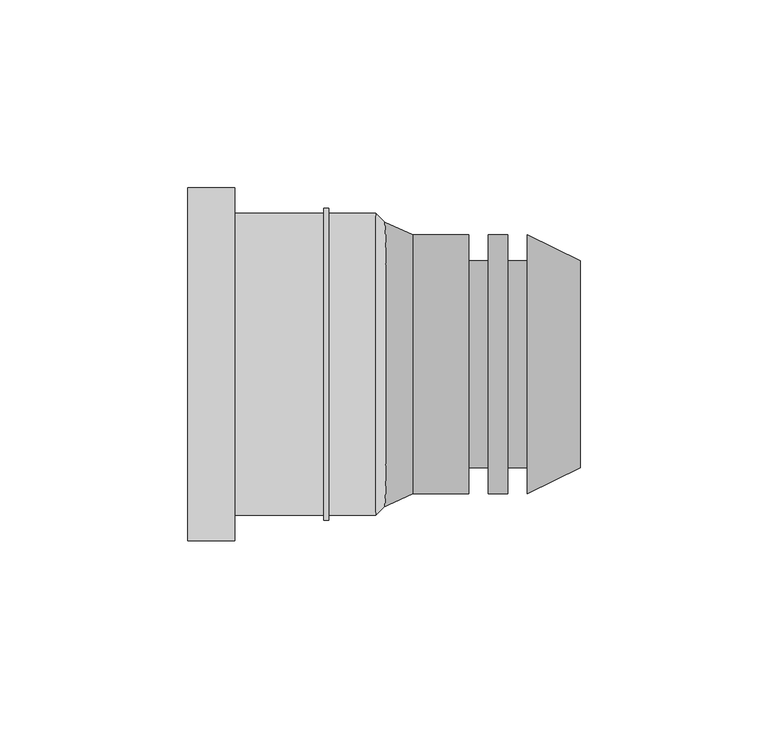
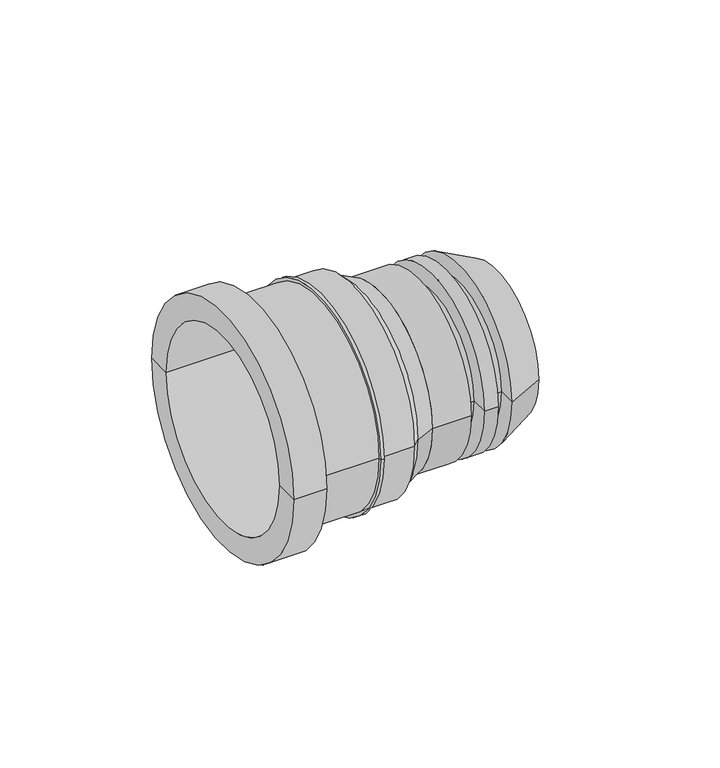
"""IFC4 building model written with IfcOpenShell, lengths in millimetres: pipe fitting geometry, UN_PIF_PP adapter socket verjongd_PipeLife : Black, var. DN/OD (max. ø125)."""

import ifcopenshell
import ifcopenshell.guid

model = None  # the IFC model being written
_history = None  # IfcOwnerHistory: only IFC2X3 demands one
_inside = {}  # id of a spatial element -> (the spatial element, [elements in it])
_under = {}  # id of a project, library or spatial element -> (it, [spatial elements below it])
_declared = {}  # id of a project -> (the project, [libraries it declares])
_typed = {}  # id of a type object -> (the type object, [elements of that type])
_made_of = {}  # id of a material, layer set ... -> (it, [elements and type objects made of it])


def new_model(schema):
    """Start an empty IFC model of exactly this schema.

    Asked for "IFC4X3", IfcOpenShell would pick the latest addendum, in which some entities
    have other attributes; the version numbers below select the first issue.
    IFC2X3 requires an IfcOwnerHistory on every rooted entity: one is made here for all.
    """
    global model, _history
    if schema == "IFC4X3":
        model = ifcopenshell.file(schema_version=(4, 3, 0, 0))
    else:
        model = ifcopenshell.file(schema=schema)
    _inside.clear()
    _under.clear()
    _declared.clear()
    _typed.clear()
    _made_of.clear()
    _history = None
    if model.schema == "IFC2X3":
        org = make("IfcOrganization", Name="unknown")
        user = make(
            "IfcPersonAndOrganization",
            ThePerson=make("IfcPerson", FamilyName="unknown"),
            TheOrganization=org,
        )
        app = make(
            "IfcApplication",
            ApplicationDeveloper=org,
            Version="unknown",
            ApplicationFullName="unknown",
            ApplicationIdentifier="unknown",
        )
        _history = make(
            "IfcOwnerHistory",
            OwningUser=user,
            OwningApplication=app,
            ChangeAction="ADDED",
            CreationDate=0,
        )
    return model


def make(cls, **values):
    """One entity of the class cls with the attributes given. An attribute that is None is left unset."""
    return model.create_entity(
        cls, **{name: value for name, value in values.items() if value is not None}
    )


def rooted(cls, **values):
    """An entity with a GlobalId (a new one), such as an element, a storey or a relation."""
    return make(cls, GlobalId=ifcopenshell.guid.new(), OwnerHistory=_history, **values)


def si_unit(unit_type, name, prefix=None):
    """IfcSIUnit, for example si_unit("LENGTHUNIT", "METRE", prefix="MILLI")."""
    return make("IfcSIUnit", UnitType=unit_type, Prefix=prefix, Name=name)


def assignment(units):
    """IfcUnitAssignment: the units of a project."""
    return None if units is None else make("IfcUnitAssignment", Units=units)


def point(xyz):
    """IfcCartesianPoint."""
    return None if xyz is None else make("IfcCartesianPoint", Coordinates=xyz)


def direction(xyz):
    """IfcDirection."""
    return None if xyz is None else make("IfcDirection", DirectionRatios=xyz)


def frame(location, z_axis=None, x_axis=None):
    """IfcAxis2Placement3D, a coordinate frame: its origin and axes. An axis left out is left unset."""
    return make(
        "IfcAxis2Placement3D",
        Location=point(location),
        Axis=direction(z_axis),
        RefDirection=direction(x_axis),
    )


def origin():
    """The frame at (0, 0, 0) with its axes left unset."""
    return frame((0.0, 0.0, 0.0))


def place(relative_to, where):
    """IfcLocalPlacement: puts the frame where relative to a parent placement (None: the world)."""
    return make(
        "IfcLocalPlacement", PlacementRelTo=relative_to, RelativePlacement=where
    )


def context(
    kind, dimensions, precision=None, world=None, true_north=None, identifier=None
):
    """IfcGeometricRepresentationContext, for example the 3D "Model" context."""
    return make(
        "IfcGeometricRepresentationContext",
        ContextIdentifier=identifier,
        ContextType=kind,
        CoordinateSpaceDimension=dimensions,
        Precision=precision,
        WorldCoordinateSystem=world,
        TrueNorth=true_north,
    )


def project(units=None, contexts=None):
    """IfcProject with its units and contexts."""
    return rooted(
        "IfcProject",
        Name="project",
        RepresentationContexts=contexts,
        UnitsInContext=assignment(units),
    )


def spatial(cls, under=None, at=None, **own):
    """A site, building, storey or space (cls), placed at a placement, below another one or the project."""
    s = rooted(cls, ObjectPlacement=at, **own)
    if under is not None:
        _under.setdefault(under.id(), (under, []))[1].append(s)
    return s


def polyline(points):
    """IfcPolyline through the points."""
    return make("IfcPolyline", Points=[point(p) for p in points])


def circle_curve(where, radius):
    """IfcCircle in the frame where."""
    return make("IfcCircle", Position=where, Radius=radius)


def shape(context_of_items, identifier, shape_type, items):
    """IfcShapeRepresentation: the items that make up one representation, for example the "Body"."""
    return make(
        "IfcShapeRepresentation",
        ContextOfItems=context_of_items,
        RepresentationIdentifier=identifier,
        RepresentationType=shape_type,
        Items=items,
    )


def source(mapping_origin, context_of_items, identifier, shape_type, items):
    """IfcRepresentationMap: a shape defined once, which mapped items show again and again."""
    return make(
        "IfcRepresentationMap",
        MappingOrigin=mapping_origin,
        MappedRepresentation=shape(context_of_items, identifier, shape_type, items),
    )


def transform(
    local_origin,
    x_axis=None,
    y_axis=None,
    z_axis=None,
    scale=None,
    scale2=None,
    scale3=None,
    uniform=True,
):
    """IfcCartesianTransformationOperator3D, or its non-uniform kind. x_axis, y_axis, z_axis: its Axis1, 2, 3."""
    if uniform:
        return make(
            "IfcCartesianTransformationOperator3D",
            Axis1=direction(x_axis),
            Axis2=direction(y_axis),
            LocalOrigin=point(local_origin),
            Scale=scale,
            Axis3=direction(z_axis),
        )
    return make(
        "IfcCartesianTransformationOperator3DnonUniform",
        Axis1=direction(x_axis),
        Axis2=direction(y_axis),
        LocalOrigin=point(local_origin),
        Scale=scale,
        Axis3=direction(z_axis),
        Scale2=scale2,
        Scale3=scale3,
    )


def mapped(mapping_source, mapping_target):
    """IfcMappedItem: shows the shape of a source again, moved by a transform."""
    return make(
        "IfcMappedItem", MappingSource=mapping_source, MappingTarget=mapping_target
    )


def made_of(thing, what):
    """Note that an element or type object is made of a material, layer set ...; save() writes the relation."""
    if what is not None:
        _made_of.setdefault(what.id(), (what, []))[1].append(thing)
    return thing


def element(
    cls,
    number,
    at=None,
    inside=None,
    cuts=None,
    type_object=None,
    material=None,
    context=None,
    identifier="Body",
    shape_type=None,
    held_by="IfcProductDefinitionShape",
    body=None,
    shapes=None,
    **own,
):
    """One element of the class cls, such as IfcWall. Its Tag is "e" and its number.

    at: its placement. inside: the storey or other place that contains it. cuts: it is an
    opening in that element (IfcRelVoidsElement). A single representation is given by context,
    identifier, shape_type and body (its items); several are given by shapes. held_by: the class
    of the entity that holds the representations. save() writes the other relations.
    """
    e = rooted(cls, Tag="e%d" % number, ObjectPlacement=at, **own)
    if body is not None:
        shapes = [shape(context, identifier, shape_type, body)]
    if shapes is not None:
        e.Representation = make(held_by, Representations=shapes)
    if inside is not None:
        _inside.setdefault(inside.id(), (inside, []))[1].append(e)
    if cuts is not None:
        rooted(
            "IfcRelVoidsElement", RelatingBuildingElement=cuts, RelatedOpeningElement=e
        )
    if type_object is not None:
        _typed.setdefault(type_object.id(), (type_object, []))[1].append(e)
    return made_of(e, material)


def aggregate(whole, parts):
    """IfcRelAggregates: a whole, such as a stair, and the parts it consists of."""
    return rooted("IfcRelAggregates", RelatingObject=whole, RelatedObjects=parts)


def save(model, path):
    """Write the relations noted so far, then the file.

    IfcRelAggregates (storeys below a building ...), IfcRelContainedInSpatialStructure (elements
    in a storey), IfcRelDefinesByType, IfcRelAssociatesMaterial and IfcRelDeclares: one each for
    every whole, place, type object, material and project.
    """
    for whole, parts in _under.values():
        aggregate(whole, parts)
    for where, things in _inside.values():
        rooted(
            "IfcRelContainedInSpatialStructure",
            RelatedElements=things,
            RelatingStructure=where,
        )
    for kind, things in _typed.values():
        rooted("IfcRelDefinesByType", RelatedObjects=things, RelatingType=kind)
    for what, things in _made_of.values():
        rooted("IfcRelAssociatesMaterial", RelatedObjects=things, RelatingMaterial=what)
    for by, libraries in _declared.values():
        rooted("IfcRelDeclares", RelatingContext=by, RelatedDefinitions=libraries)
    model.write(path)


def plane_surface(at):
    """IfcPlane: the flat surface through the origin of the frame at, square to its z axis."""
    return make("IfcPlane", Position=at)


def cylinder_surface(at, radius):
    """IfcCylindricalSurface: all points at the distance radius from the z axis of the frame at."""
    return make("IfcCylindricalSurface", Position=at, Radius=radius)


def revolved_surface(curve, axis_point, axis_direction):
    """IfcSurfaceOfRevolution: the curve turned about the line through axis_point along axis_direction."""
    return make(
        "IfcSurfaceOfRevolution",
        SweptCurve=make("IfcArbitraryOpenProfileDef", ProfileType="CURVE", Curve=curve),
        AxisPosition=make("IfcAxis1Placement", Location=point(axis_point), Axis=direction(axis_direction)),
    )


def advanced_brep(points, edges, surfaces, faces):
    """IfcAdvancedBrep: a solid bounded by faces that lie on surfaces and meet in shared edges.

    An edge is (start, end): straight between two places in points (the first is 0);
    or (start, end, curve); or (start, end, curve, False) where it runs against its curve.
    A face is (place in surfaces, loops), or (place, loops, False) where it looks against
    its surface's normal. A loop lists edges by number (the first is 1), with a minus sign
    where the edge is run from its end to its start. The first loop is the outer one.
    """
    corners = [point(p) for p in points]
    vertices = [make("IfcVertexPoint", VertexGeometry=c) for c in corners]
    made = []
    for start, end, *more in edges:
        made.append(
            make(
                "IfcEdgeCurve",
                EdgeStart=vertices[start],
                EdgeEnd=vertices[end],
                EdgeGeometry=more[0] if more else make("IfcPolyline", Points=[corners[start], corners[end]]),
                SameSense=more[1] if len(more) > 1 else True,
            )
        )
    hull = []
    for where, loops, *sense in faces:
        bounds = []
        for j, loop in enumerate(loops):
            ring = [make("IfcOrientedEdge", EdgeElement=made[abs(k) - 1], Orientation=k > 0) for k in loop]
            bounds.append(
                make(
                    "IfcFaceOuterBound" if j == 0 else "IfcFaceBound",
                    Bound=make("IfcEdgeLoop", EdgeList=ring),
                    Orientation=True,
                )
            )
        hull.append(make("IfcAdvancedFace", Bounds=bounds, FaceSurface=surfaces[where], SameSense=sense[0] if sense else True))
    return make("IfcAdvancedBrep", Outer=make("IfcClosedShell", CfsFaces=hull))


def pipe_fitting_f07398e3(model_context):
    return source(origin(), model_context, "Body", "AdvancedBrep", [
        advanced_brep(
        [(-7.2, 37.5, 0.0), (-7.2, -37.5, 0.0), (-9.9, -40.2, 0.0), (-9.9, 40.2, 0.0), (-59.8, 46.9, 0.0), (-59.8, -46.9, 0.0), (-59.8, -37.5, 0.0), (-59.8, 37.5, 0.0), (-47.325, 46.9, 0.0), (-47.325, -46.9, 0.0), (-47.325, 40.2, 0.0), (-47.325, -40.2, 0.0), (-23.625, 40.2, 0.0), (-23.625, -40.2, 0.0), (-23.625, 41.45, 0.0), (-23.625, -41.45, 0.0), (-22.375, 41.45, 0.0), (-22.375, -41.45, 0.0), (-22.375, 40.2, 0.0), (-22.375, -40.2, 0.0)],
        [
            (0, 1, circle_curve(frame((-7.2, 0.0, 0.0), z_axis=(-1.0, 0.0, 0.0), x_axis=(0.0, -1.0, 0.0)), 37.5)),
            (1, 2),
            (2, 3, circle_curve(frame((-9.9, 0.0, 0.0), z_axis=(1.0, 0.0, 0.0), x_axis=(0.0, -1.0, 0.0)), 40.2)),
            (3, 0),
            (1, 0, circle_curve(frame((-7.2, 0.0, 0.0), z_axis=(-1.0, 0.0, 0.0), x_axis=(0.0, -1.0, 0.0)), 37.5)),
            (3, 2, circle_curve(frame((-9.9, 0.0, 0.0), z_axis=(1.0, 0.0, 0.0), x_axis=(0.0, -1.0, 0.0)), 40.2)),
            (4, 5, circle_curve(frame((-59.8, 0.0, 0.0), z_axis=(-1.0, 0.0, 0.0), x_axis=(0.0, -1.0, 0.0)), 46.9)),
            (5, 6),
            (6, 7, circle_curve(frame((-59.8, 0.0, 0.0), z_axis=(1.0, 0.0, 0.0), x_axis=(0.0, -1.0, 0.0)), 37.5)),
            (7, 4),
            (5, 4, circle_curve(frame((-59.8, 0.0, 0.0), z_axis=(-1.0, 0.0, 0.0), x_axis=(0.0, -1.0, 0.0)), 46.9)),
            (7, 6, circle_curve(frame((-59.8, 0.0, 0.0), z_axis=(1.0, 0.0, 0.0), x_axis=(0.0, -1.0, 0.0)), 37.5)),
            (8, 9, circle_curve(frame((-47.325, 0.0, 0.0), z_axis=(-1.0, 0.0, 0.0), x_axis=(0.0, -1.0, 0.0)), 46.9)),
            (9, 5),
            (4, 8),
            (9, 8, circle_curve(frame((-47.325, 0.0, 0.0), z_axis=(-1.0, 0.0, 0.0), x_axis=(0.0, -1.0, 0.0)), 46.9)),
            (10, 11, circle_curve(frame((-47.325, 0.0, 0.0), z_axis=(-1.0, 0.0, 0.0), x_axis=(0.0, -1.0, 0.0)), 40.2)),
            (11, 9),
            (8, 10),
            (11, 10, circle_curve(frame((-47.325, 0.0, 0.0), z_axis=(-1.0, 0.0, 0.0), x_axis=(0.0, -1.0, 0.0)), 40.2)),
            (12, 13, circle_curve(frame((-23.625, 0.0, 0.0), z_axis=(-1.0, 0.0, 0.0), x_axis=(0.0, -1.0, 0.0)), 40.2)),
            (13, 11),
            (10, 12),
            (13, 12, circle_curve(frame((-23.625, 0.0, 0.0), z_axis=(-1.0, 0.0, 0.0), x_axis=(0.0, -1.0, 0.0)), 40.2)),
            (14, 15, circle_curve(frame((-23.625, 0.0, 0.0), z_axis=(-1.0, 0.0, 0.0), x_axis=(0.0, -1.0, 0.0)), 41.45)),
            (15, 13),
            (12, 14),
            (15, 14, circle_curve(frame((-23.625, 0.0, 0.0), z_axis=(-1.0, 0.0, 0.0), x_axis=(0.0, -1.0, 0.0)), 41.45)),
            (16, 17, circle_curve(frame((-22.375, 0.0, 0.0), z_axis=(-1.0, 0.0, 0.0), x_axis=(0.0, -1.0, 0.0)), 41.45)),
            (17, 15),
            (14, 16),
            (17, 16, circle_curve(frame((-22.375, 0.0, 0.0), z_axis=(-1.0, 0.0, 0.0), x_axis=(0.0, -1.0, 0.0)), 41.45)),
            (18, 19, circle_curve(frame((-22.375, 0.0, 0.0), z_axis=(-1.0, 0.0, 0.0), x_axis=(0.0, -1.0, 0.0)), 40.2)),
            (19, 17),
            (16, 18),
            (19, 18, circle_curve(frame((-22.375, 0.0, 0.0), z_axis=(-1.0, 0.0, 0.0), x_axis=(0.0, -1.0, 0.0)), 40.2)),
            (2, 19),
            (18, 3),
            (6, 1),
            (0, 7),
        ],
        [
            revolved_surface(polyline([(-9.9, -40.2, 0.0), (-7.2, -37.5, 0.0)]), (-59.8, 0.0, 0.0), (1.0, 0.0, 0.0)),
            plane_surface(frame((-59.8, 0.0, 0.0), z_axis=(-1.0, 0.0, 0.0), x_axis=(0.0, -1.0, 0.0))),
            cylinder_surface(frame((-59.8, 0.0, 0.0), z_axis=(1.0, 0.0, 0.0), x_axis=(0.0, -1.0, 0.0)), 46.9),
            plane_surface(frame((-47.325, 0.0, 0.0), z_axis=(1.0, 0.0, 0.0), x_axis=(0.0, -1.0, 0.0))),
            cylinder_surface(frame((-59.8, 0.0, 0.0), z_axis=(1.0, 0.0, 0.0), x_axis=(0.0, -1.0, 0.0)), 40.2),
            plane_surface(frame((-23.625, 0.0, 0.0), z_axis=(-1.0, 0.0, 0.0), x_axis=(0.0, -1.0, 0.0))),
            cylinder_surface(frame((-59.8, 0.0, 0.0), z_axis=(1.0, 0.0, 0.0), x_axis=(0.0, -1.0, 0.0)), 41.45),
            plane_surface(frame((-22.375, 0.0, 0.0), z_axis=(1.0, 0.0, 0.0), x_axis=(0.0, -1.0, 0.0))),
            revolved_surface(polyline([(-7.200000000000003, -37.5, 0.0), (-59.8, -37.5, 0.0)]), (-59.8, 0.0, 0.0), (1.0, 0.0, 0.0)),
        ],
        [
            (0, [[1, 2, 3, 4]]),
            (0, [[5, -4, 6, -2]]),
            (1, [[7, 8, 9, 10]]),
            (1, [[11, -10, 12, -8]]),
            (2, [[13, 14, -7, 15]]),
            (2, [[16, -15, -11, -14]]),
            (3, [[17, 18, -13, 19]]),
            (3, [[20, -19, -16, -18]]),
            (4, [[21, 22, -17, 23]]),
            (4, [[24, -23, -20, -22]]),
            (5, [[25, 26, -21, 27]]),
            (5, [[28, -27, -24, -26]]),
            (6, [[29, 30, -25, 31]]),
            (6, [[32, -31, -28, -30]]),
            (7, [[33, 34, -29, 35]]),
            (7, [[36, -35, -32, -34]]),
            (4, [[-3, 37, -33, 38]]),
            (4, [[-6, -38, -36, -37]]),
            (8, [[-9, 39, -1, 40]]),
            (8, [[-12, -40, -5, -39]]),
        ],
    ),
        advanced_brep(
        [(0.0, -34.4, 0.0), (0.0, 34.4, 0.0), (-9.9, -38.9, 0.0), (-9.9, 38.9, 0.0)],
        [
            (0, 1, circle_curve(frame((0.0, 0.0, 0.0), z_axis=(1.0, 0.0, 0.0), x_axis=(0.0, -1.0, 0.0)), 34.4)),
            (1, 0, circle_curve(frame((0.0, 0.0, 0.0), z_axis=(1.0, 0.0, 0.0), x_axis=(0.0, 1.0, 0.0)), 34.4)),
            (2, 3, circle_curve(frame((-9.9, 0.0, 0.0), z_axis=(-1.0, 0.0, 0.0), x_axis=(0.0, 1.0, 0.0)), 38.9)),
            (3, 2, circle_curve(frame((-9.9, 0.0, 0.0), z_axis=(-1.0, 0.0, 0.0), x_axis=(0.0, -1.0, 0.0)), 38.9)),
            (3, 1),
            (0, 2),
        ],
        [
            plane_surface(frame((0.0, 0.0, 0.0), z_axis=(1.0, 0.0, 0.0), x_axis=(0.0, 0.0, -1.0))),
            plane_surface(frame((-9.9, 0.0, 0.0), z_axis=(-1.0, 0.0, 0.0), x_axis=(0.0, 0.0, -1.0))),
            revolved_surface(polyline([(0.0, -34.4, 0.0), (-9.900000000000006, -38.9, 0.0)]), (75.68, 0.0, 0.0), (-1.0, 0.0, 0.0)),
            revolved_surface(polyline([(0.0, 34.4, 0.0), (-9.900000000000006, 38.9, 0.0)]), (75.68, 0.0, 0.0), (-1.0, 0.0, 0.0)),
        ],
        [
            (0, [[1, 2]]),
            (1, [[3, 4]]),
            (2, [[-4, 5, -1, 6]]),
            (3, [[-3, -6, -2, -5]]),
        ],
    ),
        advanced_brep(
        [(0.0, 0.0, 0.0), (0.0, 34.4, 0.0), (0.0, -34.4, 0.0), (44.5, -27.5, 0.0), (44.5, 27.5, 0.0), (44.5, 0.0, 0.0), (30.4333333, -34.4, 0.0), (30.4333333, 34.4, 0.0), (30.4333333, -27.5, 0.0), (30.4333333, 27.5, 0.0), (25.2333333, -27.5, 0.0), (25.2333333, 27.5, 0.0), (25.2333333, -34.4, 0.0), (25.2333333, 34.4, 0.0), (20.0333333, -34.4, 0.0), (20.0333333, 34.4, 0.0), (20.0333333, -27.5, 0.0), (20.0333333, 27.5, 0.0), (14.8333333, -27.5, 0.0), (14.8333333, 27.5, 0.0), (14.8333333, -34.4, 0.0), (14.8333333, 34.4, 0.0)],
        [
            (0, 1),
            (1, 2, circle_curve(frame((0.0, 0.0, 0.0), z_axis=(-1.0, 0.0, 0.0), x_axis=(0.0, 1.0, 0.0)), 34.4)),
            (2, 0),
            (2, 1, circle_curve(frame((0.0, 0.0, 0.0), z_axis=(-1.0, 0.0, 0.0), x_axis=(0.0, 1.0, 0.0)), 34.4)),
            (3, 4, circle_curve(frame((44.5, 0.0, 0.0), z_axis=(1.0, 0.0, 0.0), x_axis=(0.0, 1.0, 0.0)), 27.5)),
            (4, 5),
            (5, 3),
            (4, 3, circle_curve(frame((44.5, 0.0, 0.0), z_axis=(1.0, 0.0, 0.0), x_axis=(0.0, 1.0, 0.0)), 27.5)),
            (6, 7, circle_curve(frame((30.4333333, 0.0, 0.0), z_axis=(1.0, 0.0, 0.0), x_axis=(0.0, 1.0, 0.0)), 34.4)),
            (7, 4),
            (3, 6),
            (7, 6, circle_curve(frame((30.4333333, 0.0, 0.0), z_axis=(1.0, 0.0, 0.0), x_axis=(0.0, 1.0, 0.0)), 34.4)),
            (8, 9, circle_curve(frame((30.4333333, 0.0, 0.0), z_axis=(1.0, 0.0, 0.0), x_axis=(0.0, 1.0, 0.0)), 27.5)),
            (9, 7),
            (6, 8),
            (9, 8, circle_curve(frame((30.4333333, 0.0, 0.0), z_axis=(1.0, 0.0, 0.0), x_axis=(0.0, 1.0, 0.0)), 27.5)),
            (10, 11, circle_curve(frame((25.2333333, 0.0, 0.0), z_axis=(1.0, 0.0, 0.0), x_axis=(0.0, 1.0, 0.0)), 27.5)),
            (11, 9),
            (8, 10),
            (11, 10, circle_curve(frame((25.2333333, 0.0, 0.0), z_axis=(1.0, 0.0, 0.0), x_axis=(0.0, 1.0, 0.0)), 27.5)),
            (12, 13, circle_curve(frame((25.2333333, 0.0, 0.0), z_axis=(1.0, 0.0, 0.0), x_axis=(0.0, 1.0, 0.0)), 34.4)),
            (13, 11),
            (10, 12),
            (13, 12, circle_curve(frame((25.2333333, 0.0, 0.0), z_axis=(1.0, 0.0, 0.0), x_axis=(0.0, 1.0, 0.0)), 34.4)),
            (14, 15, circle_curve(frame((20.0333333, 0.0, 0.0), z_axis=(1.0, 0.0, 0.0), x_axis=(0.0, 1.0, 0.0)), 34.4)),
            (15, 13),
            (12, 14),
            (15, 14, circle_curve(frame((20.0333333, 0.0, 0.0), z_axis=(1.0, 0.0, 0.0), x_axis=(0.0, 1.0, 0.0)), 34.4)),
            (16, 17, circle_curve(frame((20.0333333, 0.0, 0.0), z_axis=(1.0, 0.0, 0.0), x_axis=(0.0, 1.0, 0.0)), 27.5)),
            (17, 15),
            (14, 16),
            (17, 16, circle_curve(frame((20.0333333, 0.0, 0.0), z_axis=(1.0, 0.0, 0.0), x_axis=(0.0, 1.0, 0.0)), 27.5)),
            (18, 19, circle_curve(frame((14.8333333, 0.0, 0.0), z_axis=(1.0, 0.0, 0.0), x_axis=(0.0, 1.0, 0.0)), 27.5)),
            (19, 17),
            (16, 18),
            (19, 18, circle_curve(frame((14.8333333, 0.0, 0.0), z_axis=(1.0, 0.0, 0.0), x_axis=(0.0, 1.0, 0.0)), 27.5)),
            (20, 21, circle_curve(frame((14.8333333, 0.0, 0.0), z_axis=(1.0, 0.0, 0.0), x_axis=(0.0, 1.0, 0.0)), 34.4)),
            (21, 19),
            (18, 20),
            (21, 20, circle_curve(frame((14.8333333, 0.0, 0.0), z_axis=(1.0, 0.0, 0.0), x_axis=(0.0, 1.0, 0.0)), 34.4)),
            (1, 21),
            (20, 2),
        ],
        [
            plane_surface(frame((0.0, 0.0, 0.0), z_axis=(-1.0, 0.0, 0.0), x_axis=(0.0, 1.0, 0.0))),
            plane_surface(frame((44.5, 0.0, 0.0), z_axis=(1.0, 0.0, 0.0), x_axis=(0.0, 1.0, 0.0))),
            revolved_surface(polyline([(44.5, 27.5, 0.0), (30.4333333, 34.4, 0.0)]), (81.1505984, 0.0, 0.0), (-1.0, 0.0, 0.0)),
            plane_surface(frame((30.4333333, 0.0, 0.0), z_axis=(-1.0, 0.0, 0.0), x_axis=(0.0, 1.0, 0.0))),
            cylinder_surface(frame((81.1505984, 0.0, 0.0), z_axis=(-1.0, 0.0, 0.0), x_axis=(0.0, 1.0, 0.0)), 27.5),
            plane_surface(frame((25.2333333, 0.0, 0.0), z_axis=(1.0, 0.0, 0.0), x_axis=(0.0, 1.0, 0.0))),
            cylinder_surface(frame((81.1505984, 0.0, 0.0), z_axis=(-1.0, 0.0, 0.0), x_axis=(0.0, 1.0, 0.0)), 34.4),
            plane_surface(frame((20.0333333, 0.0, 0.0), z_axis=(-1.0, 0.0, 0.0), x_axis=(0.0, 1.0, 0.0))),
            plane_surface(frame((14.8333333, 0.0, 0.0), z_axis=(1.0, 0.0, 0.0), x_axis=(0.0, 1.0, 0.0))),
        ],
        [
            (0, [[1, 2, 3]]),
            (0, [[-3, 4, -1]]),
            (1, [[5, 6, 7]]),
            (1, [[8, -7, -6]]),
            (2, [[9, 10, -5, 11]]),
            (2, [[12, -11, -8, -10]]),
            (3, [[13, 14, -9, 15]]),
            (3, [[16, -15, -12, -14]]),
            (4, [[17, 18, -13, 19]]),
            (4, [[20, -19, -16, -18]]),
            (5, [[21, 22, -17, 23]]),
            (5, [[24, -23, -20, -22]]),
            (6, [[25, 26, -21, 27]]),
            (6, [[28, -27, -24, -26]]),
            (7, [[29, 30, -25, 31]]),
            (7, [[32, -31, -28, -30]]),
            (4, [[33, 34, -29, 35]]),
            (4, [[36, -35, -32, -34]]),
            (8, [[37, 38, -33, 39]]),
            (8, [[40, -39, -36, -38]]),
            (6, [[-2, 41, -37, 42]]),
            (6, [[-4, -42, -40, -41]]),
        ],
    ),
    ])


if __name__ == "__main__":
    model = new_model("IFC4")
    model_context = context("Model", 3, world=origin())
    ifc_project = project(units=[si_unit("LENGTHUNIT", "METRE", prefix="MILLI")], contexts=[model_context])
    site = spatial("IfcSite", under=ifc_project)
    building = spatial("IfcBuilding", under=site)
    placement = place(None, origin())
    pipe_fitting_shape = pipe_fitting_f07398e3(model_context)
    element("IfcPipeFitting", 1, ObjectType="UN_PIF_PP adapter socket verjongd_PipeLife : Black, var. DN/OD (max. ø125)", at=placement, inside=building, context=model_context, shape_type="MappedRepresentation", body=[
        mapped(pipe_fitting_shape, transform((0.0, 0.0, 0.0), x_axis=(1.0, 0.0, 0.0), y_axis=(0.0, 1.0, 0.0), z_axis=(0.0, 0.0, 1.0))),
    ])
    save(model, "model.ifc")
